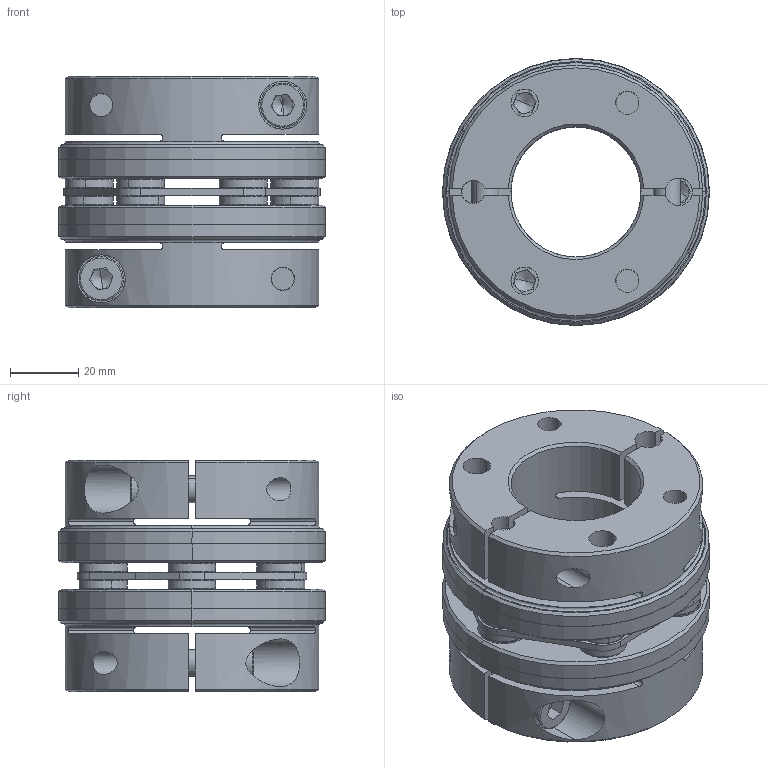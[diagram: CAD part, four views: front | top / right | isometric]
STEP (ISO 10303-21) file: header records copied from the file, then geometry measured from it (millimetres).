
FILE_DESCRIPTION (( 'STEP AP203' ), '1' );
FILE_NAME ('SCDS-78C-TYPE6(38X38).STEP', '2021-12-27T01:40:42', ( '' ), ( '' ), 'SwSTEP 2.0', 'SolidWorks 2021', '' );
FILE_SCHEMA (( 'CONFIG_CONTROL_DESIGN' ));
Length unit declared in the file: millimetre
Products named in the file (1): SCDS-78C-TYPE6(38X38)
Bounding box: 78 x 78 x 67.7 mm (x, y, z)
Volume: 176800.4 mm3; surface area: 66665.2 mm2
Topology: 1 solids, 13 shells, 685 faces, 1661 edges, 1020 vertices
Faces by surface type: cylinder 251, plane 214, cone 120, torus 100
Entity records: 21386 total; most frequent: CARTESIAN_POINT 4719, DIRECTION 3787, ORIENTED_EDGE 3282, EDGE_CURVE 1641, AXIS2_PLACEMENT_3D 1560, VERTEX_POINT 1020, CIRCLE 874, EDGE_LOOP 797
